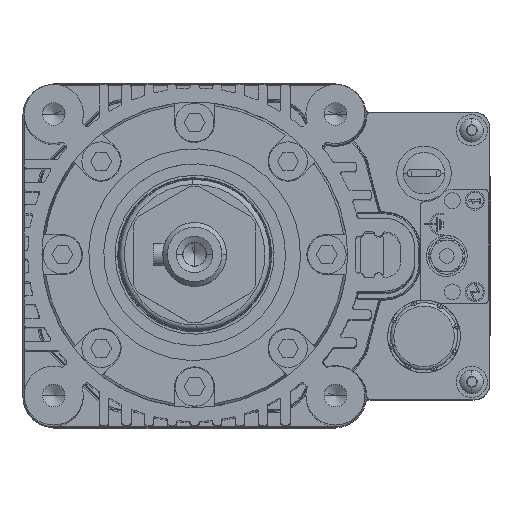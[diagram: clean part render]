
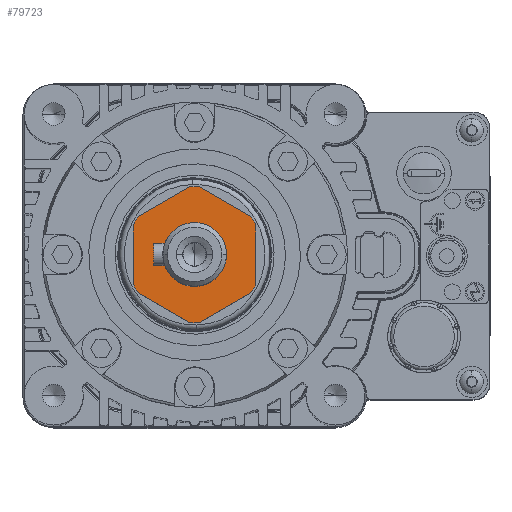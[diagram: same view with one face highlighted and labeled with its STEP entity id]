
A CAD part, top view. The second image highlights one B-rep face of the part: STEP entity #79723.
In plain terms, the highlighted planar face has unit normal (0, 0, 1).
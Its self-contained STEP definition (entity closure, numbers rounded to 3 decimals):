
#373 = CARTESIAN_POINT ( 'NONE',  ( 13.5, -7.794, 277.15 ) ) ;
#682 = FACE_BOUND ( 'NONE', #23414, .T. ) ;
#1757 = CARTESIAN_POINT ( 'NONE',  ( -12.412, 8.422, 277.15 ) ) ;
#3387 = DIRECTION ( 'NONE',  ( 1., 0., 0. ) ) ;
#4131 = VECTOR ( 'NONE', #50909, 1000. ) ;
#4792 = DIRECTION ( 'NONE',  ( -1., 0., 0. ) ) ;
#4809 = AXIS2_PLACEMENT_3D ( 'NONE', #7752, #64931, #50041 ) ;
#4909 = ORIENTED_EDGE ( 'NONE', *, *, #50430, .T. ) ;
#7304 = ORIENTED_EDGE ( 'NONE', *, *, #44679, .T. ) ;
#7752 = CARTESIAN_POINT ( 'NONE',  ( 0., 0., 277.15 ) ) ;
#9177 = ORIENTED_EDGE ( 'NONE', *, *, #80547, .T. ) ;
#10339 = CARTESIAN_POINT ( 'NONE',  ( 13.5, 6.538, 277.15 ) ) ;
#10415 = VECTOR ( 'NONE', #34004, 1000. ) ;
#11351 = CIRCLE ( 'NONE', #81507, 15. ) ;
#11805 = DIRECTION ( 'NONE',  ( -1., 0., 0. ) ) ;
#12021 = AXIS2_PLACEMENT_3D ( 'NONE', #31470, #96918, #97471 ) ;
#12350 = CARTESIAN_POINT ( 'NONE',  ( 0., 0., 277.15 ) ) ;
#13728 = CARTESIAN_POINT ( 'NONE',  ( 0., 0., 277.15 ) ) ;
#13969 = ORIENTED_EDGE ( 'NONE', *, *, #27996, .F. ) ;
#14730 = CARTESIAN_POINT ( 'NONE',  ( 0., -15.588, 277.15 ) ) ;
#14930 = EDGE_CURVE ( 'NONE', #49687, #40089, #54066, .T. ) ;
#16413 = CARTESIAN_POINT ( 'NONE',  ( 0., 0., 277.15 ) ) ;
#16461 = VERTEX_POINT ( 'NONE', #29859 ) ;
#17533 = CARTESIAN_POINT ( 'NONE',  ( 12.412, 8.422, 277.15 ) ) ;
#17574 = CIRCLE ( 'NONE', #56108, 15. ) ;
#18729 = CARTESIAN_POINT ( 'NONE',  ( -15., 0., 277.15 ) ) ;
#19812 = VERTEX_POINT ( 'NONE', #38573 ) ;
#20169 = CARTESIAN_POINT ( 'NONE',  ( -1.088, 14.961, 277.15 ) ) ;
#20744 = VERTEX_POINT ( 'NONE', #29216 ) ;
#20786 = DIRECTION ( 'NONE',  ( -1., 0., 0. ) ) ;
#21763 = AXIS2_PLACEMENT_3D ( 'NONE', #29572, #96146, #20786 ) ;
#22898 = ORIENTED_EDGE ( 'NONE', *, *, #23792, .T. ) ;
#23414 = EDGE_LOOP ( 'NONE', ( #71373, #9177 ) ) ;
#23566 = LINE ( 'NONE', #84071, #10415 ) ;
#23792 = EDGE_CURVE ( 'NONE', #44837, #19812, #28435, .T. ) ;
#25906 = FACE_OUTER_BOUND ( 'NONE', #41014, .T. ) ;
#26493 = VECTOR ( 'NONE', #63112, 1000. ) ;
#27995 = AXIS2_PLACEMENT_3D ( 'NONE', #102647, #63017, #45968 ) ;
#27996 = EDGE_CURVE ( 'NONE', #44837, #20744, #83833, .T. ) ;
#28435 = LINE ( 'NONE', #36195, #26493 ) ;
#29216 = CARTESIAN_POINT ( 'NONE',  ( -13.5, -6.538, 277.15 ) ) ;
#29265 = EDGE_CURVE ( 'NONE', #68975, #67167, #11351, .T. ) ;
#29572 = CARTESIAN_POINT ( 'NONE',  ( 0., 0., 277.15 ) ) ;
#29859 = CARTESIAN_POINT ( 'NONE',  ( 13.5, -6.538, 277.15 ) ) ;
#30736 = DIRECTION ( 'NONE',  ( -1., 0., 0. ) ) ;
#31346 = CARTESIAN_POINT ( 'NONE',  ( 1.088, 14.961, 277.15 ) ) ;
#31470 = CARTESIAN_POINT ( 'NONE',  ( 0., 0., 277.15 ) ) ;
#31713 = LINE ( 'NONE', #14730, #42306 ) ;
#32108 = EDGE_CURVE ( 'NONE', #100450, #19812, #33031, .T. ) ;
#32996 = EDGE_CURVE ( 'NONE', #53605, #56752, #17574, .T. ) ;
#33031 = CIRCLE ( 'NONE', #27995, 15. ) ;
#34004 = DIRECTION ( 'NONE',  ( 0., -1., 0. ) ) ;
#35756 = DIRECTION ( 'NONE',  ( -0.866, -0.5, 0. ) ) ;
#36195 = CARTESIAN_POINT ( 'NONE',  ( -13.5, -7.794, 277.15 ) ) ;
#36409 = AXIS2_PLACEMENT_3D ( 'NONE', #13728, #72514, #30736 ) ;
#36678 = CARTESIAN_POINT ( 'NONE',  ( 0., 0., 277.15 ) ) ;
#38573 = CARTESIAN_POINT ( 'NONE',  ( -1.088, -14.961, 277.15 ) ) ;
#40089 = VERTEX_POINT ( 'NONE', #1757 ) ;
#40866 = CIRCLE ( 'NONE', #86441, 15. ) ;
#41014 = EDGE_LOOP ( 'NONE', ( #92626, #63777, #92799, #7304, #13969, #22898, #47845, #4909, #83090, #89685, #103120, #102442 ) ) ;
#42306 = VECTOR ( 'NONE', #47695, 1000. ) ;
#44679 = EDGE_CURVE ( 'NONE', #49687, #20744, #23566, .T. ) ;
#44837 = VERTEX_POINT ( 'NONE', #97157 ) ;
#45968 = DIRECTION ( 'NONE',  ( -1., 0., 0. ) ) ;
#46893 = EDGE_CURVE ( 'NONE', #16461, #62950, #40866, .T. ) ;
#47695 = DIRECTION ( 'NONE',  ( 0.866, 0.5, 0. ) ) ;
#47845 = ORIENTED_EDGE ( 'NONE', *, *, #32108, .F. ) ;
#49687 = VERTEX_POINT ( 'NONE', #51434 ) ;
#50041 = DIRECTION ( 'NONE',  ( -1., 0., 0. ) ) ;
#50401 = CARTESIAN_POINT ( 'NONE',  ( -7., 0., 277.15 ) ) ;
#50430 = EDGE_CURVE ( 'NONE', #100450, #62950, #31713, .T. ) ;
#50909 = DIRECTION ( 'NONE',  ( 0., 1., 0. ) ) ;
#51434 = CARTESIAN_POINT ( 'NONE',  ( -13.5, 6.538, 277.15 ) ) ;
#51780 = CARTESIAN_POINT ( 'NONE',  ( 7., 0., 277.15 ) ) ;
#52215 = LINE ( 'NONE', #68745, #72385 ) ;
#52278 = PLANE ( 'NONE',  #94167 ) ;
#52507 = LINE ( 'NONE', #373, #4131 ) ;
#53605 = VERTEX_POINT ( 'NONE', #17533 ) ;
#53648 = DIRECTION ( 'NONE',  ( 0., 0., -1. ) ) ;
#54066 = CIRCLE ( 'NONE', #12021, 15. ) ;
#55633 = CIRCLE ( 'NONE', #36409, 7. ) ;
#55647 = DIRECTION ( 'NONE',  ( 0., 0., -1. ) ) ;
#56108 = AXIS2_PLACEMENT_3D ( 'NONE', #16413, #58715, #66993 ) ;
#56752 = VERTEX_POINT ( 'NONE', #10339 ) ;
#58715 = DIRECTION ( 'NONE',  ( 0., 0., -1. ) ) ;
#62131 = CIRCLE ( 'NONE', #21763, 7. ) ;
#62950 = VERTEX_POINT ( 'NONE', #107320 ) ;
#63017 = DIRECTION ( 'NONE',  ( 0., 0., -1. ) ) ;
#63112 = DIRECTION ( 'NONE',  ( 0.866, -0.5, 0. ) ) ;
#63777 = ORIENTED_EDGE ( 'NONE', *, *, #71503, .T. ) ;
#64931 = DIRECTION ( 'NONE',  ( 0., 0., -1. ) ) ;
#66993 = DIRECTION ( 'NONE',  ( -1., 0., 0. ) ) ;
#67167 = VERTEX_POINT ( 'NONE', #31346 ) ;
#68745 = CARTESIAN_POINT ( 'NONE',  ( 0., 15.588, 277.15 ) ) ;
#68808 = DIRECTION ( 'NONE',  ( 0., 0., 1. ) ) ;
#68975 = VERTEX_POINT ( 'NONE', #20169 ) ;
#71373 = ORIENTED_EDGE ( 'NONE', *, *, #107512, .T. ) ;
#71503 = EDGE_CURVE ( 'NONE', #68975, #40089, #52215, .T. ) ;
#72385 = VECTOR ( 'NONE', #35756, 1000. ) ;
#72514 = DIRECTION ( 'NONE',  ( 0., 0., -1. ) ) ;
#73851 = DIRECTION ( 'NONE',  ( -0.866, 0.5, 0. ) ) ;
#79723 = ADVANCED_FACE ( 'NONE', ( #682, #25906 ), #52278, .T. ) ;
#80547 = EDGE_CURVE ( 'NONE', #89245, #102255, #55633, .T. ) ;
#81009 = LINE ( 'NONE', #99159, #93744 ) ;
#81507 = AXIS2_PLACEMENT_3D ( 'NONE', #36678, #53648, #4792 ) ;
#83090 = ORIENTED_EDGE ( 'NONE', *, *, #46893, .F. ) ;
#83833 = CIRCLE ( 'NONE', #4809, 15. ) ;
#84071 = CARTESIAN_POINT ( 'NONE',  ( -13.5, 7.794, 277.15 ) ) ;
#86441 = AXIS2_PLACEMENT_3D ( 'NONE', #12350, #55647, #11805 ) ;
#89245 = VERTEX_POINT ( 'NONE', #51780 ) ;
#89685 = ORIENTED_EDGE ( 'NONE', *, *, #98925, .T. ) ;
#92626 = ORIENTED_EDGE ( 'NONE', *, *, #29265, .F. ) ;
#92799 = ORIENTED_EDGE ( 'NONE', *, *, #14930, .F. ) ;
#93744 = VECTOR ( 'NONE', #73851, 1000. ) ;
#94167 = AXIS2_PLACEMENT_3D ( 'NONE', #18729, #68808, #3387 ) ;
#94388 = CARTESIAN_POINT ( 'NONE',  ( 1.088, -14.961, 277.15 ) ) ;
#96146 = DIRECTION ( 'NONE',  ( 0., 0., -1. ) ) ;
#96918 = DIRECTION ( 'NONE',  ( 0., 0., -1. ) ) ;
#97157 = CARTESIAN_POINT ( 'NONE',  ( -12.412, -8.422, 277.15 ) ) ;
#97471 = DIRECTION ( 'NONE',  ( -1., 0., 0. ) ) ;
#98925 = EDGE_CURVE ( 'NONE', #16461, #56752, #52507, .T. ) ;
#99159 = CARTESIAN_POINT ( 'NONE',  ( 13.5, 7.794, 277.15 ) ) ;
#100450 = VERTEX_POINT ( 'NONE', #94388 ) ;
#102255 = VERTEX_POINT ( 'NONE', #50401 ) ;
#102442 = ORIENTED_EDGE ( 'NONE', *, *, #108150, .T. ) ;
#102647 = CARTESIAN_POINT ( 'NONE',  ( 0., 0., 277.15 ) ) ;
#103120 = ORIENTED_EDGE ( 'NONE', *, *, #32996, .F. ) ;
#107320 = CARTESIAN_POINT ( 'NONE',  ( 12.412, -8.422, 277.15 ) ) ;
#107512 = EDGE_CURVE ( 'NONE', #102255, #89245, #62131, .T. ) ;
#108150 = EDGE_CURVE ( 'NONE', #53605, #67167, #81009, .T. ) ;
